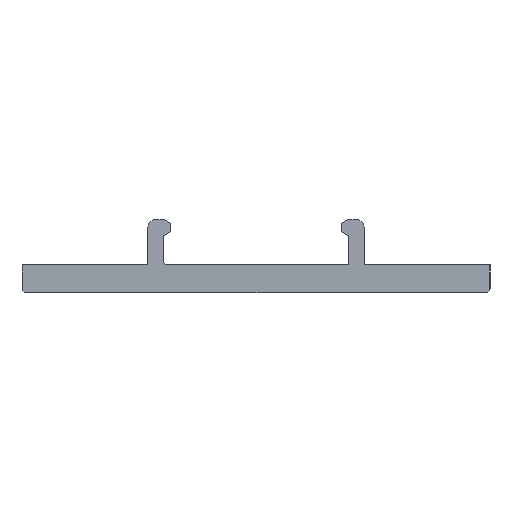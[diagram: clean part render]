
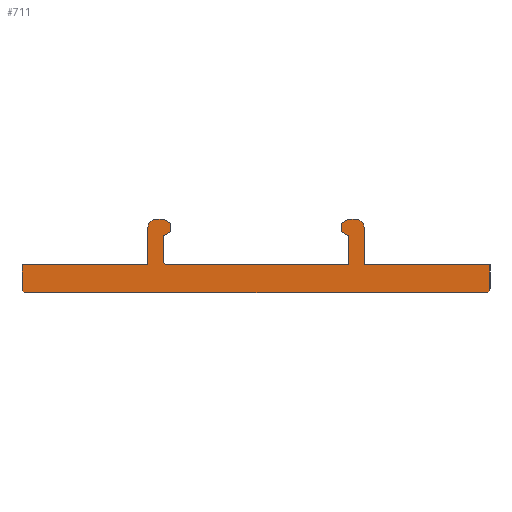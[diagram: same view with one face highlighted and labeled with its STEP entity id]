
A CAD part, left-side view. The second image highlights one B-rep face of the part: STEP entity #711.
In plain terms, the highlighted planar face has unit normal (-1, 0, 0).
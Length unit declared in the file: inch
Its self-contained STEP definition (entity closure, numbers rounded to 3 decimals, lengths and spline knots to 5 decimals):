
#177=DIRECTION('',(0.,0.,1.));
#178=VECTOR('',#177,0.09843);
#179=CARTESIAN_POINT('',(-24.,0.98425,-0.09843));
#180=LINE('',#179,#178);
#181=DIRECTION('',(0.,-1.,0.));
#182=VECTOR('',#181,0.52756);
#183=CARTESIAN_POINT('',(-24.,0.98425,0.));
#184=LINE('',#183,#182);
#185=DIRECTION('',(0.,0.,1.));
#186=VECTOR('',#185,0.15354);
#187=CARTESIAN_POINT('',(-24.,0.45669,0.));
#188=LINE('',#187,#186);
#189=CARTESIAN_POINT('',(-24.,0.41732,0.15354));
#190=DIRECTION('',(1.,0.,0.));
#191=DIRECTION('',(0.,1.,0.));
#192=AXIS2_PLACEMENT_3D('',#189,#190,#191);
#194=DIRECTION('',(0.,-1.,0.));
#195=VECTOR('',#194,0.02756);
#196=CARTESIAN_POINT('',(-24.,0.41732,0.19291));
#197=LINE('',#196,#195);
#198=CARTESIAN_POINT('',(-24.,0.38976,0.15748));
#199=DIRECTION('',(1.,0.,0.));
#200=DIRECTION('',(0.,0.,1.));
#201=AXIS2_PLACEMENT_3D('',#198,#199,#200);
#203=DIRECTION('',(0.,0.,-1.));
#204=VECTOR('',#203,0.11307);
#205=CARTESIAN_POINT('',(-24.,0.38976,0.12205));
#206=LINE('',#205,#204);
#207=CARTESIAN_POINT('',(-24.,0.38973,0.00898));
#208=CARTESIAN_POINT('',(-24.,0.38996,0.00739));
#209=CARTESIAN_POINT('',(-24.,0.38939,0.00447));
#210=CARTESIAN_POINT('',(-24.,0.38653,0.00102));
#211=CARTESIAN_POINT('',(-24.,0.38363,0.));
#212=CARTESIAN_POINT('',(-24.,0.38189,0.));
#214=DIRECTION('',(0.,-1.,0.));
#215=VECTOR('',#214,0.76378);
#216=CARTESIAN_POINT('',(-24.,0.38189,0.));
#217=LINE('',#216,#215);
#218=CARTESIAN_POINT('',(-24.,-0.38189,0.00787));
#219=DIRECTION('',(-1.,0.,0.));
#220=DIRECTION('',(0.,0.,-1.));
#221=AXIS2_PLACEMENT_3D('',#218,#219,#220);
#223=DIRECTION('',(0.,0.,1.));
#224=VECTOR('',#223,0.11462);
#225=CARTESIAN_POINT('',(-24.,-0.38976,0.00743));
#226=LINE('',#225,#224);
#227=CARTESIAN_POINT('',(-24.,-0.38976,0.15748));
#228=DIRECTION('',(1.,0.,0.));
#229=DIRECTION('',(0.,0.,-1.));
#230=AXIS2_PLACEMENT_3D('',#227,#228,#229);
#232=DIRECTION('',(0.,-1.,0.));
#233=VECTOR('',#232,0.02756);
#234=CARTESIAN_POINT('',(-24.,-0.38976,0.19291));
#235=LINE('',#234,#233);
#236=CARTESIAN_POINT('',(-24.,-0.41732,0.15354));
#237=DIRECTION('',(1.,0.,0.));
#238=DIRECTION('',(0.,0.,1.));
#239=AXIS2_PLACEMENT_3D('',#236,#237,#238);
#241=DIRECTION('',(0.,0.,-1.));
#242=VECTOR('',#241,0.15354);
#243=CARTESIAN_POINT('',(-24.,-0.45669,0.15354));
#244=LINE('',#243,#242);
#245=DIRECTION('',(0.,-1.,0.));
#246=VECTOR('',#245,0.52756);
#247=CARTESIAN_POINT('',(-24.,-0.45669,0.));
#248=LINE('',#247,#246);
#249=DIRECTION('',(0.,0.,-1.));
#250=VECTOR('',#249,0.09843);
#251=CARTESIAN_POINT('',(-24.,-0.98425,0.));
#252=LINE('',#251,#250);
#253=CARTESIAN_POINT('',(-24.,-0.96457,-0.09843));
#254=DIRECTION('',(1.,0.,0.));
#255=DIRECTION('',(0.,-1.,0.));
#256=AXIS2_PLACEMENT_3D('',#253,#254,#255);
#258=DIRECTION('',(0.,1.,0.));
#259=VECTOR('',#258,1.92913);
#260=CARTESIAN_POINT('',(-24.,-0.96457,-0.11811));
#261=LINE('',#260,#259);
#262=CARTESIAN_POINT('',(-24.,0.96457,-0.09843));
#263=DIRECTION('',(1.,0.,0.));
#264=DIRECTION('',(0.,0.,-1.));
#265=AXIS2_PLACEMENT_3D('',#262,#263,#264);
#267=CARTESIAN_POINT('',(-24.,-0.41732,0.19291));
#268=CARTESIAN_POINT('',(-24.,-0.45669,0.15354));
#269=VERTEX_POINT('',#267);
#270=VERTEX_POINT('',#268);
#271=CARTESIAN_POINT('',(-24.,0.98425,-0.09843));
#272=CARTESIAN_POINT('',(-24.,0.98425,0.));
#273=VERTEX_POINT('',#271);
#274=VERTEX_POINT('',#272);
#275=CARTESIAN_POINT('',(-24.,0.45669,0.));
#276=VERTEX_POINT('',#275);
#277=CARTESIAN_POINT('',(-24.,0.45669,0.15354));
#278=VERTEX_POINT('',#277);
#279=CARTESIAN_POINT('',(-24.,0.41732,0.19291));
#280=VERTEX_POINT('',#279);
#281=CARTESIAN_POINT('',(-24.,0.38976,0.19291));
#282=VERTEX_POINT('',#281);
#283=CARTESIAN_POINT('',(-24.,0.38976,0.12205));
#284=VERTEX_POINT('',#283);
#285=CARTESIAN_POINT('',(-24.,0.38973,0.00898));
#286=VERTEX_POINT('',#285);
#287=VERTEX_POINT('',#212);
#288=CARTESIAN_POINT('',(-24.,-0.38189,0.));
#289=VERTEX_POINT('',#288);
#290=CARTESIAN_POINT('',(-24.,-0.38975,0.00743));
#291=VERTEX_POINT('',#290);
#292=CARTESIAN_POINT('',(-24.,-0.38976,0.12205));
#293=VERTEX_POINT('',#292);
#294=CARTESIAN_POINT('',(-24.,-0.38976,0.19291));
#295=VERTEX_POINT('',#294);
#296=CARTESIAN_POINT('',(-24.,-0.45669,0.));
#297=VERTEX_POINT('',#296);
#298=CARTESIAN_POINT('',(-24.,-0.98425,0.));
#299=VERTEX_POINT('',#298);
#300=CARTESIAN_POINT('',(-24.,-0.98425,-0.09843));
#301=VERTEX_POINT('',#300);
#302=CARTESIAN_POINT('',(-24.,-0.96457,-0.11811));
#303=VERTEX_POINT('',#302);
#304=CARTESIAN_POINT('',(-24.,0.96457,-0.11811));
#305=VERTEX_POINT('',#304);
#684=CARTESIAN_POINT('',(-24.,0.41732,0.15354));
#685=DIRECTION('',(-1.,0.,0.));
#686=DIRECTION('',(0.,0.,1.));
#687=AXIS2_PLACEMENT_3D('',#684,#685,#686);
#688=PLANE('',#687);
#689=ORIENTED_EDGE('',*,*,#562,.T.);
#690=ORIENTED_EDGE('',*,*,#547,.T.);
#691=ORIENTED_EDGE('',*,*,#532,.T.);
#692=ORIENTED_EDGE('',*,*,#517,.T.);
#693=ORIENTED_EDGE('',*,*,#502,.T.);
#694=ORIENTED_EDGE('',*,*,#487,.T.);
#695=ORIENTED_EDGE('',*,*,#472,.T.);
#696=ORIENTED_EDGE('',*,*,#456,.T.);
#697=ORIENTED_EDGE('',*,*,#439,.T.);
#698=ORIENTED_EDGE('',*,*,#424,.T.);
#699=ORIENTED_EDGE('',*,*,#408,.T.);
#700=ORIENTED_EDGE('',*,*,#391,.T.);
#701=ORIENTED_EDGE('',*,*,#376,.T.);
#702=ORIENTED_EDGE('',*,*,#361,.T.);
#703=ORIENTED_EDGE('',*,*,#651,.T.);
#704=ORIENTED_EDGE('',*,*,#637,.T.);
#705=ORIENTED_EDGE('',*,*,#622,.T.);
#706=ORIENTED_EDGE('',*,*,#607,.T.);
#707=ORIENTED_EDGE('',*,*,#592,.T.);
#708=ORIENTED_EDGE('',*,*,#577,.T.);
#709=EDGE_LOOP('',(#689,#690,#691,#692,#693,#694,#695,#696,#697,#698,#699,#700,
#701,#702,#703,#704,#705,#706,#707,#708));
#710=FACE_OUTER_BOUND('',#709,.F.);
#193=CIRCLE('',#192,0.03937);
#202=CIRCLE('',#201,0.03543);
#213=B_SPLINE_CURVE_WITH_KNOTS('',3,(#207,#208,#209,#210,#211,#212),
.UNSPECIFIED.,.F.,.F.,(4,1,1,4),(0.,0.33333,0.66667,1.),
.UNSPECIFIED.);
#222=CIRCLE('',#221,0.00787);
#231=CIRCLE('',#230,0.03543);
#240=CIRCLE('',#239,0.03937);
#257=CIRCLE('',#256,0.01969);
#266=CIRCLE('',#265,0.01969);
#361=EDGE_CURVE('',#269,#270,#240,.T.);
#376=EDGE_CURVE('',#295,#269,#235,.T.);
#391=EDGE_CURVE('',#293,#295,#231,.T.);
#408=EDGE_CURVE('',#291,#293,#226,.T.);
#424=EDGE_CURVE('',#289,#291,#222,.T.);
#439=EDGE_CURVE('',#287,#289,#217,.T.);
#456=EDGE_CURVE('',#286,#287,#213,.T.);
#472=EDGE_CURVE('',#284,#286,#206,.T.);
#487=EDGE_CURVE('',#282,#284,#202,.T.);
#502=EDGE_CURVE('',#280,#282,#197,.T.);
#517=EDGE_CURVE('',#278,#280,#193,.T.);
#532=EDGE_CURVE('',#276,#278,#188,.T.);
#547=EDGE_CURVE('',#274,#276,#184,.T.);
#562=EDGE_CURVE('',#273,#274,#180,.T.);
#577=EDGE_CURVE('',#305,#273,#266,.T.);
#592=EDGE_CURVE('',#303,#305,#261,.T.);
#607=EDGE_CURVE('',#301,#303,#257,.T.);
#622=EDGE_CURVE('',#299,#301,#252,.T.);
#637=EDGE_CURVE('',#297,#299,#248,.T.);
#651=EDGE_CURVE('',#270,#297,#244,.T.);
#711=ADVANCED_FACE('',(#710),#688,.T.);
